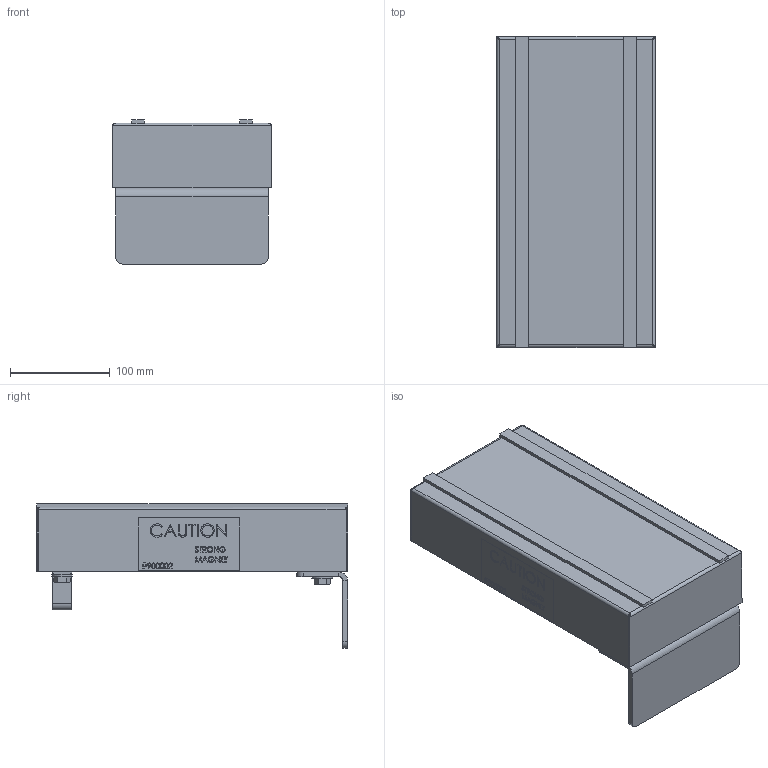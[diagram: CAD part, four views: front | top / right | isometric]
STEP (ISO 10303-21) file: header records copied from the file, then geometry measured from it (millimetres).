
FILE_DESCRIPTION (( 'STEP AP203' ), '1' );
FILE_NAME ('MGF12.STEP', '2017-12-20T14:34:29', ( 'admin' ), ( '' ), 'SwSTEP 2.0', 'SolidWorks 2015', '' );
FILE_SCHEMA (( 'CONFIG_CONTROL_DESIGN' ));
Length unit declared in the file: inch
Products named in the file (1): MGF12
Bounding box: 159.26 x 311.4 x 144.15 mm (x, y, z)
Volume: 2050383.5 mm3; surface area: 564185.1 mm2
Topology: 20 solids, 20 shells, 2352 faces, 5954 edges, 3860 vertices
Faces by surface type: plane 1313, bspline 675, cylinder 180, cone 176, torus 8
Entity records: 111259 total; most frequent: CARTESIAN_POINT 59064, ORIENTED_EDGE 11908, DIRECTION 8316, EDGE_CURVE 5954, LINE 4032, VECTOR 4032, VERTEX_POINT 3860, EDGE_LOOP 2602
